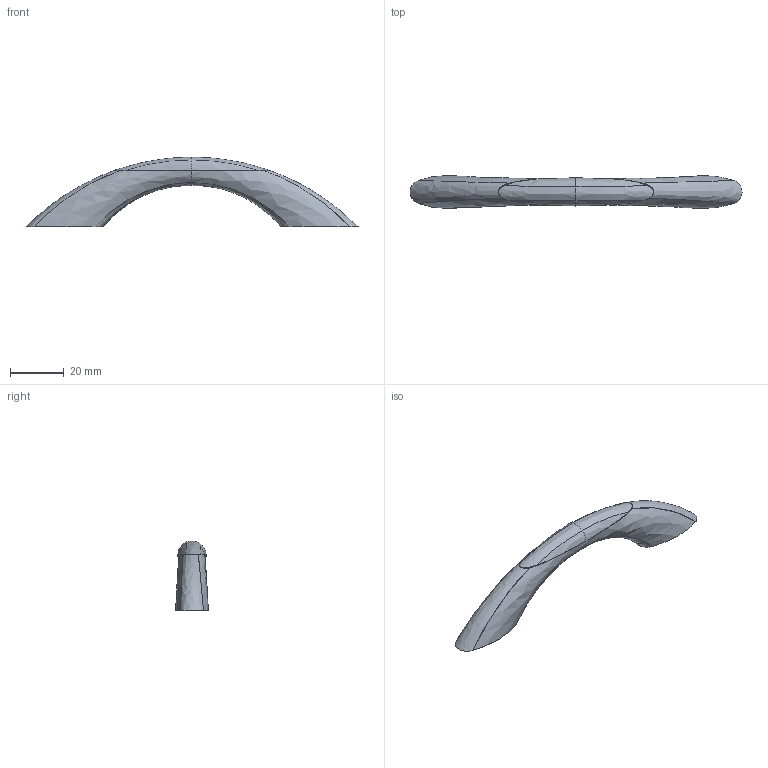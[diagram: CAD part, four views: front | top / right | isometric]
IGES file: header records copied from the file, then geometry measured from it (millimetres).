
Start section: C
Global section: file name: 039-124.igs; native system: By Siemens PLM Incorporated; preprocessor: XPlus GENERIC/IGES 16.0.42; author: Author; organization: Title; date: 20231226.095218; units: millimetre
Bounding box: 123.09 x 12.2 x 25.9 mm (x, y, z)
Surface area: 9191.3 mm2 (no closed solid volume)
Topology: 0 solids, 0 shells, 63 faces, 384 edges, 384 vertices
Faces by surface type: bspline 63
